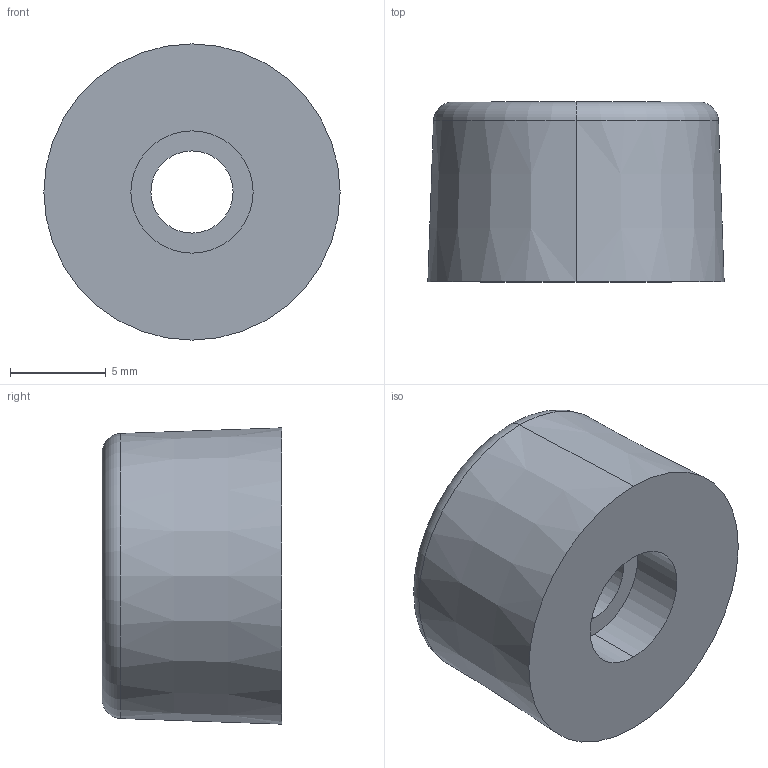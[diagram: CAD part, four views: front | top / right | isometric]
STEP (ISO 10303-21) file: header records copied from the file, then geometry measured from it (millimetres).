
FILE_DESCRIPTION (( 'STEP AP203' ), '1' );
FILE_NAME ('A-83.STEP', '2025-08-06T08:58:23', ( '' ), ( '' ), 'SwSTEP 2.0', 'SolidWorks 2021', '' );
FILE_SCHEMA (( 'CONFIG_CONTROL_DESIGN' ));
Length unit declared in the file: millimetre
Products named in the file (3): A-83; A-83_pul
Assembly tree (2 placements, depth 2):
  A-83
    A-83
    A-83_pul
Bounding box: 15.5 x 9.4 x 15.5 mm (x, y, z)
Volume: 1228 mm3; surface area: 1326.6 mm2
Topology: 2 solids, 2 shells, 20 faces, 40 edges, 26 vertices
Faces by surface type: cylinder 10, plane 6, cone 2, torus 2
Entity records: 849 total; most frequent: DIRECTION 118, CARTESIAN_POINT 91, ORIENTED_EDGE 80, AXIS2_PLACEMENT_3D 53, EDGE_CURVE 40, CIRCLE 28, PERSON_AND_ORGANIZATION 26, EDGE_LOOP 26
